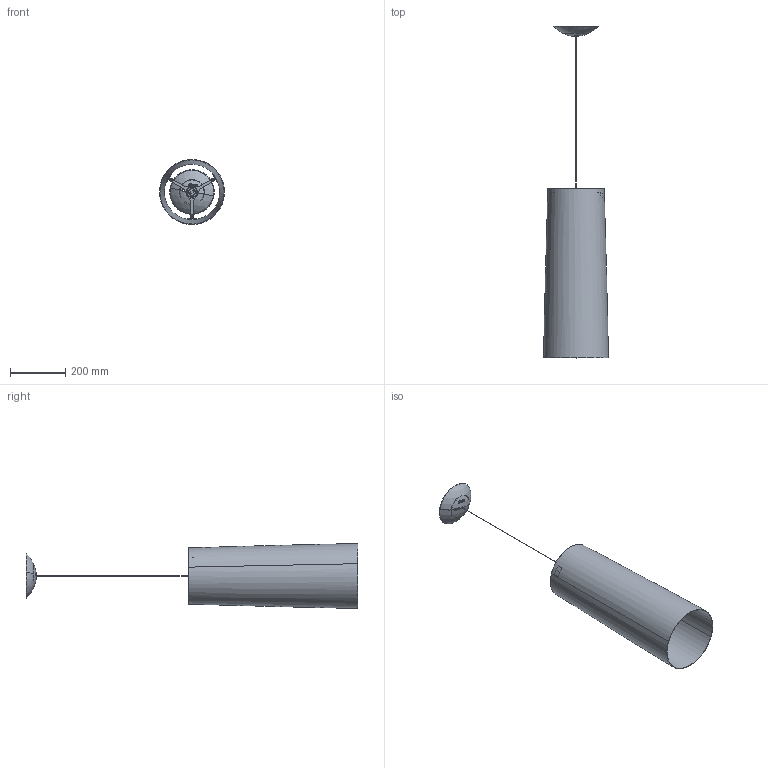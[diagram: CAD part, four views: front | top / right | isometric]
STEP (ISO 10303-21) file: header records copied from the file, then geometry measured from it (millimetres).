
FILE_DESCRIPTION (( 'STEP AP214' ), '1' );
FILE_NAME ('182_PICCOLA_S_PL_3D.STEP', '2021-05-05T10:59:05', ( '' ), ( '' ), 'SwSTEP 2.0', 'SolidWorks 2021', '' );
FILE_SCHEMA (( 'AUTOMOTIVE_DESIGN' ));
Length unit declared in the file: millimetre
Products named in the file (1): 182_PICCOLA_S_PL_3D
Bounding box: 234.33 x 1196.94 x 234.36 mm (x, y, z)
Volume: 724972.6 mm3; surface area: 927884.6 mm2
Topology: 11 solids, 11 shells, 772 faces, 2017 edges, 1294 vertices
Faces by surface type: plane 279, cylinder 190, bspline 175, cone 61, torus 45, sphere 22
Entity records: 41975 total; most frequent: CARTESIAN_POINT 15377, ORIENTED_EDGE 4006, DIRECTION 3356, EDGE_CURVE 2003, VERTEX_POINT 1290, AXIS2_PLACEMENT_3D 1261, EDGE_LOOP 855, VECTOR 834
